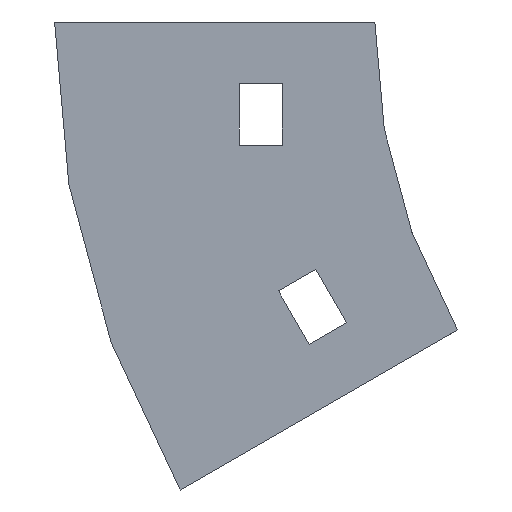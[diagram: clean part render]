
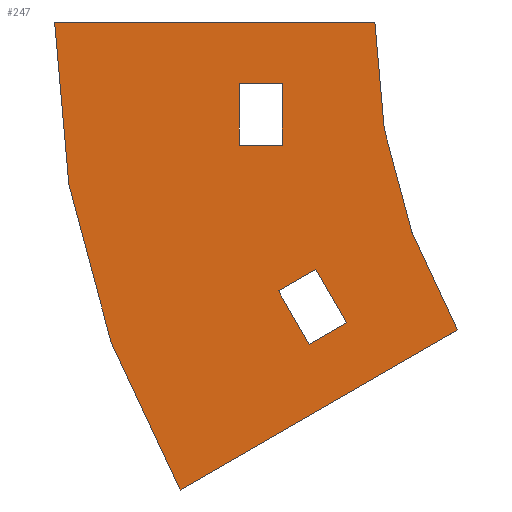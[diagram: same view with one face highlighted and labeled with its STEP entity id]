
A CAD part, left-side view. The second image highlights one B-rep face of the part: STEP entity #247.
In plain terms, the highlighted planar face has unit normal (-1, 0, 0).
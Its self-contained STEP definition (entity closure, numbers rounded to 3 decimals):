
#10 = ORIENTED_EDGE ( 'NONE', *, *, #839, .F. ) ;
#12 = EDGE_CURVE ( 'NONE', #931, #286, #603, .T. ) ;
#20 = VERTEX_POINT ( 'NONE', #586 ) ;
#42 = EDGE_LOOP ( 'NONE', ( #1080, #257, #113, #324 ) ) ;
#55 = VERTEX_POINT ( 'NONE', #1106 ) ;
#57 = LINE ( 'NONE', #404, #958 ) ;
#59 = CARTESIAN_POINT ( 'NONE',  ( -152., -100., 0. ) ) ;
#66 = EDGE_CURVE ( 'NONE', #869, #1021, #1150, .T. ) ;
#68 = ORIENTED_EDGE ( 'NONE', *, *, #165, .F. ) ;
#70 = CARTESIAN_POINT ( 'NONE',  ( -152., -13.397, -50. ) ) ;
#72 = LINE ( 'NONE', #943, #929 ) ;
#93 = DIRECTION ( 'NONE',  ( -1., 0., 0. ) ) ;
#102 = ORIENTED_EDGE ( 'NONE', *, *, #499, .F. ) ;
#112 = FACE_OUTER_BOUND ( 'NONE', #720, .T. ) ;
#113 = ORIENTED_EDGE ( 'NONE', *, *, #66, .T. ) ;
#115 = DIRECTION ( 'NONE',  ( 0., 0.866, -0.5 ) ) ;
#131 = CARTESIAN_POINT ( 'NONE',  ( -152., 10.655, -52.34 ) ) ;
#137 = CARTESIAN_POINT ( 'NONE',  ( -152., 15., -20. ) ) ;
#138 = PLANE ( 'NONE',  #609 ) ;
#141 = CIRCLE ( 'NONE', #1033, 152. ) ;
#165 = EDGE_CURVE ( 'NONE', #664, #1097, #249, .T. ) ;
#198 = DIRECTION ( 'NONE',  ( 0., 0., 1. ) ) ;
#205 = CARTESIAN_POINT ( 'NONE',  ( -152., 31.636, -76. ) ) ;
#212 = VECTOR ( 'NONE', #115, 1000. ) ;
#223 = CARTESIAN_POINT ( 'NONE',  ( -152., 10.655, -52.34 ) ) ;
#225 = DIRECTION ( 'NONE',  ( -1., 0., 0. ) ) ;
#247 = ADVANCED_FACE ( 'NONE', ( #280, #112, #1076 ), #138, .T. ) ;
#248 = DIRECTION ( 'NONE',  ( 0., -0.5, -0.866 ) ) ;
#249 = CIRCLE ( 'NONE', #535, 100. ) ;
#257 = ORIENTED_EDGE ( 'NONE', *, *, #795, .T. ) ;
#280 = FACE_BOUND ( 'NONE', #42, .T. ) ;
#286 = VERTEX_POINT ( 'NONE', #947 ) ;
#317 = EDGE_CURVE ( 'NONE', #908, #55, #941, .T. ) ;
#324 = ORIENTED_EDGE ( 'NONE', *, *, #683, .T. ) ;
#372 = VERTEX_POINT ( 'NONE', #964 ) ;
#402 = CARTESIAN_POINT ( 'NONE',  ( -152., 22., -10. ) ) ;
#404 = CARTESIAN_POINT ( 'NONE',  ( -152., 52., 0. ) ) ;
#423 = VECTOR ( 'NONE', #248, 1000. ) ;
#447 = DIRECTION ( 'NONE',  ( 0., 0., 1. ) ) ;
#464 = CARTESIAN_POINT ( 'NONE',  ( -152., 15., -10. ) ) ;
#468 = DIRECTION ( 'NONE',  ( 0., 0.5, 0.866 ) ) ;
#489 = DIRECTION ( 'NONE',  ( 0., 0., 1. ) ) ;
#499 = EDGE_CURVE ( 'NONE', #1097, #689, #72, .T. ) ;
#525 = VERTEX_POINT ( 'NONE', #867 ) ;
#535 = AXIS2_PLACEMENT_3D ( 'NONE', #635, #93, #447 ) ;
#541 = LINE ( 'NONE', #892, #901 ) ;
#542 = CARTESIAN_POINT ( 'NONE',  ( -152., 22., -20. ) ) ;
#555 = VECTOR ( 'NONE', #468, 1000. ) ;
#559 = LINE ( 'NONE', #735, #212 ) ;
#586 = CARTESIAN_POINT ( 'NONE',  ( -152., 15.655, -43.679 ) ) ;
#590 = VECTOR ( 'NONE', #846, 1000. ) ;
#603 = LINE ( 'NONE', #402, #661 ) ;
#609 = AXIS2_PLACEMENT_3D ( 'NONE', #59, #225, #489 ) ;
#625 = DIRECTION ( 'NONE',  ( 0., 1., 0. ) ) ;
#628 = CARTESIAN_POINT ( 'NONE',  ( -152., 0., 0. ) ) ;
#635 = CARTESIAN_POINT ( 'NONE',  ( -152., -100., 0. ) ) ;
#654 = EDGE_LOOP ( 'NONE', ( #1105, #885, #783, #900 ) ) ;
#655 = CARTESIAN_POINT ( 'NONE',  ( -152., 4.593, -48.84 ) ) ;
#661 = VECTOR ( 'NONE', #765, 1000. ) ;
#664 = VERTEX_POINT ( 'NONE', #628 ) ;
#683 = EDGE_CURVE ( 'NONE', #1021, #931, #541, .T. ) ;
#689 = VERTEX_POINT ( 'NONE', #205 ) ;
#690 = LINE ( 'NONE', #223, #423 ) ;
#720 = EDGE_LOOP ( 'NONE', ( #68, #967, #10, #102 ) ) ;
#722 = EDGE_CURVE ( 'NONE', #525, #20, #559, .T. ) ;
#735 = CARTESIAN_POINT ( 'NONE',  ( -152., 15.655, -43.679 ) ) ;
#744 = EDGE_CURVE ( 'NONE', #55, #525, #978, .T. ) ;
#755 = DIRECTION ( 'NONE',  ( 0., 0.866, -0.5 ) ) ;
#762 = CARTESIAN_POINT ( 'NONE',  ( -152., -100., 0. ) ) ;
#765 = DIRECTION ( 'NONE',  ( 0., -1., 0. ) ) ;
#767 = DIRECTION ( 'NONE',  ( 0., -1., 0. ) ) ;
#783 = ORIENTED_EDGE ( 'NONE', *, *, #1085, .F. ) ;
#795 = EDGE_CURVE ( 'NONE', #286, #869, #825, .T. ) ;
#801 = VECTOR ( 'NONE', #625, 1000. ) ;
#825 = LINE ( 'NONE', #464, #590 ) ;
#839 = EDGE_CURVE ( 'NONE', #689, #372, #141, .T. ) ;
#846 = DIRECTION ( 'NONE',  ( 0., 0., -1. ) ) ;
#860 = CARTESIAN_POINT ( 'NONE',  ( -152., 22., -10. ) ) ;
#867 = CARTESIAN_POINT ( 'NONE',  ( -152., 9.593, -40.179 ) ) ;
#869 = VERTEX_POINT ( 'NONE', #137 ) ;
#885 = ORIENTED_EDGE ( 'NONE', *, *, #317, .F. ) ;
#892 = CARTESIAN_POINT ( 'NONE',  ( -152., 22., -10. ) ) ;
#900 = ORIENTED_EDGE ( 'NONE', *, *, #722, .F. ) ;
#901 = VECTOR ( 'NONE', #198, 1000. ) ;
#908 = VERTEX_POINT ( 'NONE', #131 ) ;
#921 = DIRECTION ( 'NONE',  ( 1., 0., 0. ) ) ;
#929 = VECTOR ( 'NONE', #755, 1000. ) ;
#931 = VERTEX_POINT ( 'NONE', #860 ) ;
#939 = CARTESIAN_POINT ( 'NONE',  ( -152., 22., -20. ) ) ;
#941 = LINE ( 'NONE', #957, #1086 ) ;
#943 = CARTESIAN_POINT ( 'NONE',  ( -152., -13.397, -50. ) ) ;
#947 = CARTESIAN_POINT ( 'NONE',  ( -152., 15., -10. ) ) ;
#957 = CARTESIAN_POINT ( 'NONE',  ( -152., 10.655, -52.34 ) ) ;
#958 = VECTOR ( 'NONE', #767, 1000. ) ;
#964 = CARTESIAN_POINT ( 'NONE',  ( -152., 52., 0. ) ) ;
#967 = ORIENTED_EDGE ( 'NONE', *, *, #1131, .F. ) ;
#978 = LINE ( 'NONE', #655, #555 ) ;
#1021 = VERTEX_POINT ( 'NONE', #939 ) ;
#1033 = AXIS2_PLACEMENT_3D ( 'NONE', #762, #921, #1112 ) ;
#1060 = DIRECTION ( 'NONE',  ( 0., -0.866, 0.5 ) ) ;
#1076 = FACE_BOUND ( 'NONE', #654, .T. ) ;
#1080 = ORIENTED_EDGE ( 'NONE', *, *, #12, .T. ) ;
#1085 = EDGE_CURVE ( 'NONE', #20, #908, #690, .T. ) ;
#1086 = VECTOR ( 'NONE', #1060, 1000. ) ;
#1097 = VERTEX_POINT ( 'NONE', #70 ) ;
#1105 = ORIENTED_EDGE ( 'NONE', *, *, #744, .F. ) ;
#1106 = CARTESIAN_POINT ( 'NONE',  ( -152., 4.593, -48.84 ) ) ;
#1112 = DIRECTION ( 'NONE',  ( 0., 0., 1. ) ) ;
#1131 = EDGE_CURVE ( 'NONE', #372, #664, #57, .T. ) ;
#1150 = LINE ( 'NONE', #542, #801 ) ;
